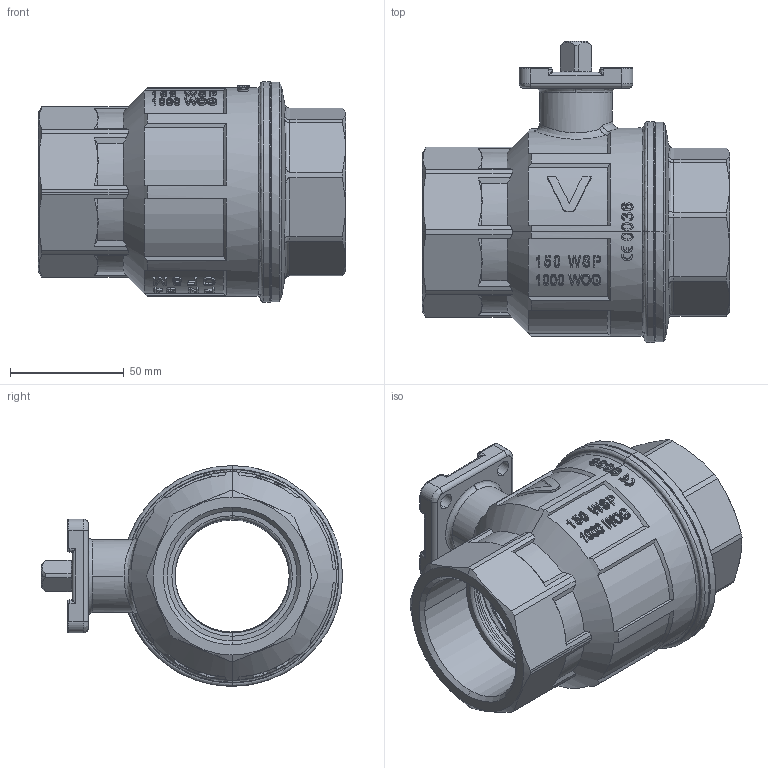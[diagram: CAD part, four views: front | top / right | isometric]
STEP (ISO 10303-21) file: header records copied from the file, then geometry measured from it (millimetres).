
FILE_DESCRIPTION (( 'STEP AP203' ), '1' );
FILE_NAME ('70300010.STEP', '2009-05-20T09:53:59', ( '.' ), ( '.' ), 'SwSTEP 2.0', 'SolidWorks 2008', '' );
FILE_SCHEMA (( 'CONFIG_CONTROL_DESIGN' ));
Products named in the file (1): 70300010
Bounding box: 135 x 132.25 x 97 mm (x, y, z)
Volume: 390637.4 mm3; surface area: 114579.3 mm2
Topology: 1 solids, 1 shells, 904 faces, 2392 edges, 1540 vertices
Faces by surface type: bspline 388, plane 228, cylinder 199, cone 77, torus 12
Entity records: 97966 total; most frequent: CARTESIAN_POINT 78276, ORIENTED_EDGE 4764, DIRECTION 3023, EDGE_CURVE 2382, VERTEX_POINT 1540, AXIS2_PLACEMENT_3D 1064, EDGE_LOOP 980, ADVANCED_FACE 904
